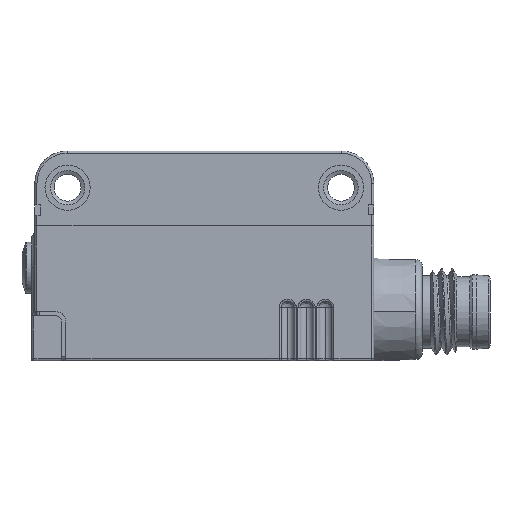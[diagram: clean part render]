
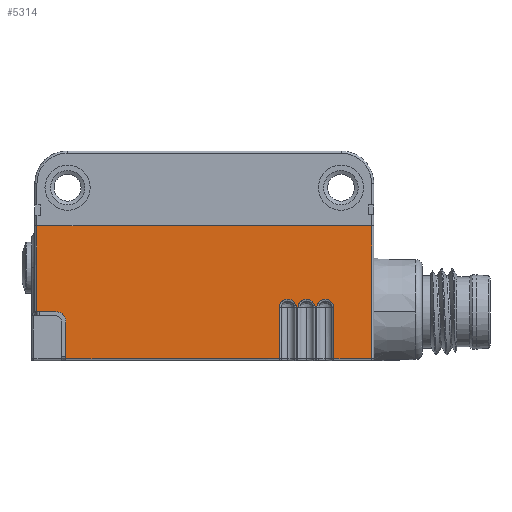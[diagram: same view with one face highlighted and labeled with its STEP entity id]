
A CAD part, left-side view. The second image highlights one B-rep face of the part: STEP entity #5314.
In plain terms, the highlighted planar face has unit normal (-1, 0, 0).
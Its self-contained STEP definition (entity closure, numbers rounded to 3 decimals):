
#811=B_SPLINE_CURVE_WITH_KNOTS('',3,(#65750,#65751,#65752,#65753,#65754,
#65755,#65756,#65757,#65758,#65759,#65760,#65761,#65762,#65763),
 .UNSPECIFIED.,.F.,.F.,(4,2,2,2,2,2,4),(0.,0.125,0.25,0.5,0.75,0.875,1.),
 .UNSPECIFIED.);
#814=B_SPLINE_CURVE_WITH_KNOTS('',3,(#65845,#65846,#65847,#65848,#65849,
#65850,#65851,#65852,#65853,#65854,#65855,#65856,#65857,#65858),
 .UNSPECIFIED.,.F.,.F.,(4,2,2,2,2,2,4),(0.,0.125,0.25,0.5,0.75,0.875,1.),
 .UNSPECIFIED.);
#817=B_SPLINE_CURVE_WITH_KNOTS('',3,(#65940,#65941,#65942,#65943,#65944,
#65945,#65946,#65947,#65948,#65949,#65950,#65951,#65952,#65953),
 .UNSPECIFIED.,.F.,.F.,(4,2,2,2,2,2,4),(0.,0.125,0.25,0.5,0.75,0.875,1.),
 .UNSPECIFIED.);
#3796=CIRCLE('',#44866,1309.533);
#3797=CIRCLE('',#44867,1.);
#5314=ADVANCED_FACE('',(#8765),#7265,.T.);
#7265=PLANE('',#44868);
#8765=FACE_OUTER_BOUND('',#11162,.T.);
#11162=EDGE_LOOP('',(#17639,#17640,#17641,#17642,#17643,#17644,#17645,#17646,
#17647,#17648,#17649,#17650,#17651,#17652,#17653,#17654,#17655,#17656,#17657));
#17639=ORIENTED_EDGE('',*,*,#31925,.F.);
#17640=ORIENTED_EDGE('',*,*,#31926,.F.);
#17641=ORIENTED_EDGE('',*,*,#31927,.F.);
#17642=ORIENTED_EDGE('',*,*,#31928,.T.);
#17643=ORIENTED_EDGE('',*,*,#31745,.T.);
#17644=ORIENTED_EDGE('',*,*,#31747,.T.);
#17645=ORIENTED_EDGE('',*,*,#31752,.T.);
#17646=ORIENTED_EDGE('',*,*,#31754,.T.);
#17647=ORIENTED_EDGE('',*,*,#31758,.T.);
#17648=ORIENTED_EDGE('',*,*,#31760,.T.);
#17649=ORIENTED_EDGE('',*,*,#31765,.T.);
#17650=ORIENTED_EDGE('',*,*,#31767,.T.);
#17651=ORIENTED_EDGE('',*,*,#31771,.T.);
#17652=ORIENTED_EDGE('',*,*,#31773,.T.);
#17653=ORIENTED_EDGE('',*,*,#31778,.T.);
#17654=ORIENTED_EDGE('',*,*,#31780,.T.);
#17655=ORIENTED_EDGE('',*,*,#31783,.T.);
#17656=ORIENTED_EDGE('',*,*,#31491,.F.);
#17657=ORIENTED_EDGE('',*,*,#31735,.T.);
#26988=VERTEX_POINT('',#64825);
#26989=VERTEX_POINT('',#64827);
#27041=VERTEX_POINT('',#65682);
#27044=VERTEX_POINT('',#65734);
#27045=VERTEX_POINT('',#65741);
#27047=VERTEX_POINT('',#65749);
#27048=VERTEX_POINT('',#65819);
#27049=VERTEX_POINT('',#65827);
#27050=VERTEX_POINT('',#65836);
#27052=VERTEX_POINT('',#65844);
#27053=VERTEX_POINT('',#65914);
#27054=VERTEX_POINT('',#65922);
#27055=VERTEX_POINT('',#65931);
#27057=VERTEX_POINT('',#65939);
#27058=VERTEX_POINT('',#66009);
#27059=VERTEX_POINT('',#66017);
#27061=VERTEX_POINT('',#66400);
#27062=VERTEX_POINT('',#66402);
#27063=VERTEX_POINT('',#66404);
#31491=EDGE_CURVE('',#26988,#26989,#36799,.T.);
#31735=EDGE_CURVE('',#26988,#27041,#36958,.T.);
#31745=EDGE_CURVE('',#27044,#27045,#36960,.T.);
#31747=EDGE_CURVE('',#27045,#27047,#811,.T.);
#31752=EDGE_CURVE('',#27047,#27048,#36961,.T.);
#31754=EDGE_CURVE('',#27048,#27049,#36962,.T.);
#31758=EDGE_CURVE('',#27049,#27050,#36963,.T.);
#31760=EDGE_CURVE('',#27050,#27052,#814,.T.);
#31765=EDGE_CURVE('',#27052,#27053,#36964,.T.);
#31767=EDGE_CURVE('',#27053,#27054,#36965,.T.);
#31771=EDGE_CURVE('',#27054,#27055,#36966,.T.);
#31773=EDGE_CURVE('',#27055,#27057,#817,.T.);
#31778=EDGE_CURVE('',#27057,#27058,#36967,.T.);
#31780=EDGE_CURVE('',#27058,#27059,#36968,.T.);
#31783=EDGE_CURVE('',#27059,#26989,#36969,.T.);
#31925=EDGE_CURVE('',#27061,#27041,#3796,.T.);
#31926=EDGE_CURVE('',#27062,#27061,#3797,.T.);
#31927=EDGE_CURVE('',#27063,#27062,#37104,.T.);
#31928=EDGE_CURVE('',#27063,#27044,#37105,.T.);
#36799=LINE('',#64826,#40661);
#36958=LINE('',#65683,#40820);
#36960=LINE('',#65742,#40822);
#36961=LINE('',#65824,#40823);
#36962=LINE('',#65828,#40824);
#36963=LINE('',#65837,#40825);
#36964=LINE('',#65919,#40826);
#36965=LINE('',#65923,#40827);
#36966=LINE('',#65932,#40828);
#36967=LINE('',#66014,#40829);
#36968=LINE('',#66018,#40830);
#36969=LINE('',#66023,#40831);
#37104=LINE('',#66403,#40966);
#37105=LINE('',#66405,#40967);
#40661=VECTOR('',#50192,1.);
#40820=VECTOR('',#50811,1.);
#40822=VECTOR('',#50831,1.);
#40823=VECTOR('',#50842,1.);
#40824=VECTOR('',#50847,1.);
#40825=VECTOR('',#50856,1.);
#40826=VECTOR('',#50867,1.);
#40827=VECTOR('',#50872,1.);
#40828=VECTOR('',#50881,1.);
#40829=VECTOR('',#50892,1.);
#40830=VECTOR('',#50897,1.);
#40831=VECTOR('',#50906,1.);
#40966=VECTOR('',#51325,1.);
#40967=VECTOR('',#51326,1.);
#44866=AXIS2_PLACEMENT_3D('',#66399,#51321,#51322);
#44867=AXIS2_PLACEMENT_3D('',#66401,#51323,#51324);
#44868=AXIS2_PLACEMENT_3D('',#66406,#51327,#51328);
#50192=DIRECTION('',(0.,-1.,0.));
#50811=DIRECTION('',(0.,0.,-1.));
#50831=DIRECTION('',(0.,0.,1.));
#50842=DIRECTION('',(0.,0.,-1.));
#50847=DIRECTION('',(0.,-1.,0.));
#50856=DIRECTION('',(0.,0.,1.));
#50867=DIRECTION('',(0.,0.,-1.));
#50872=DIRECTION('',(0.,-1.,0.));
#50881=DIRECTION('',(0.,0.,1.));
#50892=DIRECTION('',(0.,0.,-1.));
#50897=DIRECTION('',(0.,-1.,0.));
#50906=DIRECTION('',(0.,0.,1.));
#51321=DIRECTION('',(1.,0.,0.));
#51322=DIRECTION('',(0.,1.,0.));
#51323=DIRECTION('',(-1.,0.,0.));
#51324=DIRECTION('',(0.,-1.,0.));
#51325=DIRECTION('',(0.,0.,1.));
#51326=DIRECTION('',(0.,-1.,0.));
#51327=DIRECTION('',(-1.,0.,0.));
#51328=DIRECTION('',(0.,1.,0.));
#64825=CARTESIAN_POINT('',(-5.4,15.55,-6.95));
#64826=CARTESIAN_POINT('',(-5.4,0.,-6.95));
#64827=CARTESIAN_POINT('',(-5.4,-15.55,-6.95));
#65682=CARTESIAN_POINT('',(-5.4,15.55,-14.9));
#65683=CARTESIAN_POINT('',(-5.4,15.55,-10.15));
#65734=CARTESIAN_POINT('',(-5.4,-6.955,-19.3));
#65741=CARTESIAN_POINT('',(-5.4,-6.955,-14.5));
#65742=CARTESIAN_POINT('',(-5.4,-6.955,-16.9));
#65749=CARTESIAN_POINT('',(-5.4,-8.545,-14.5));
#65750=CARTESIAN_POINT('',(-5.4,-6.955,-14.5));
#65751=CARTESIAN_POINT('',(-5.4,-6.955,-14.4));
#65752=CARTESIAN_POINT('',(-5.4,-6.983,-14.303));
#65753=CARTESIAN_POINT('',(-5.4,-7.072,-14.127));
#65754=CARTESIAN_POINT('',(-5.4,-7.135,-14.048));
#65755=CARTESIAN_POINT('',(-5.4,-7.356,-13.852));
#65756=CARTESIAN_POINT('',(-5.4,-7.552,-13.777));
#65757=CARTESIAN_POINT('',(-5.4,-7.947,-13.777));
#65758=CARTESIAN_POINT('',(-5.4,-8.143,-13.85));
#65759=CARTESIAN_POINT('',(-5.4,-8.366,-14.048));
#65760=CARTESIAN_POINT('',(-5.4,-8.427,-14.126));
#65761=CARTESIAN_POINT('',(-5.4,-8.517,-14.303));
#65762=CARTESIAN_POINT('',(-5.4,-8.545,-14.4));
#65763=CARTESIAN_POINT('',(-5.4,-8.545,-14.5));
#65819=CARTESIAN_POINT('',(-5.4,-8.545,-19.3));
#65824=CARTESIAN_POINT('',(-5.4,-8.545,-16.9));
#65827=CARTESIAN_POINT('',(-5.4,-8.705,-19.3));
#65828=CARTESIAN_POINT('',(-5.4,-8.625,-19.3));
#65836=CARTESIAN_POINT('',(-5.4,-8.705,-14.5));
#65837=CARTESIAN_POINT('',(-5.4,-8.705,-16.9));
#65844=CARTESIAN_POINT('',(-5.4,-10.295,-14.5));
#65845=CARTESIAN_POINT('',(-5.4,-8.705,-14.5));
#65846=CARTESIAN_POINT('',(-5.4,-8.705,-14.4));
#65847=CARTESIAN_POINT('',(-5.4,-8.733,-14.303));
#65848=CARTESIAN_POINT('',(-5.4,-8.822,-14.127));
#65849=CARTESIAN_POINT('',(-5.4,-8.885,-14.048));
#65850=CARTESIAN_POINT('',(-5.4,-9.106,-13.852));
#65851=CARTESIAN_POINT('',(-5.4,-9.302,-13.777));
#65852=CARTESIAN_POINT('',(-5.4,-9.697,-13.777));
#65853=CARTESIAN_POINT('',(-5.4,-9.893,-13.85));
#65854=CARTESIAN_POINT('',(-5.4,-10.116,-14.048));
#65855=CARTESIAN_POINT('',(-5.4,-10.177,-14.126));
#65856=CARTESIAN_POINT('',(-5.4,-10.267,-14.303));
#65857=CARTESIAN_POINT('',(-5.4,-10.295,-14.4));
#65858=CARTESIAN_POINT('',(-5.4,-10.295,-14.5));
#65914=CARTESIAN_POINT('',(-5.4,-10.295,-19.3));
#65919=CARTESIAN_POINT('',(-5.4,-10.295,-16.9));
#65922=CARTESIAN_POINT('',(-5.4,-10.455,-19.3));
#65923=CARTESIAN_POINT('',(-5.4,-10.375,-19.3));
#65931=CARTESIAN_POINT('',(-5.4,-10.455,-14.5));
#65932=CARTESIAN_POINT('',(-5.4,-10.455,-16.9));
#65939=CARTESIAN_POINT('',(-5.4,-12.045,-14.5));
#65940=CARTESIAN_POINT('',(-5.4,-10.455,-14.5));
#65941=CARTESIAN_POINT('',(-5.4,-10.455,-14.4));
#65942=CARTESIAN_POINT('',(-5.4,-10.483,-14.303));
#65943=CARTESIAN_POINT('',(-5.4,-10.572,-14.127));
#65944=CARTESIAN_POINT('',(-5.4,-10.635,-14.048));
#65945=CARTESIAN_POINT('',(-5.4,-10.856,-13.852));
#65946=CARTESIAN_POINT('',(-5.4,-11.052,-13.777));
#65947=CARTESIAN_POINT('',(-5.4,-11.447,-13.777));
#65948=CARTESIAN_POINT('',(-5.4,-11.643,-13.85));
#65949=CARTESIAN_POINT('',(-5.4,-11.866,-14.048));
#65950=CARTESIAN_POINT('',(-5.4,-11.927,-14.126));
#65951=CARTESIAN_POINT('',(-5.4,-12.017,-14.303));
#65952=CARTESIAN_POINT('',(-5.4,-12.045,-14.4));
#65953=CARTESIAN_POINT('',(-5.4,-12.045,-14.5));
#66009=CARTESIAN_POINT('',(-5.4,-12.045,-19.3));
#66014=CARTESIAN_POINT('',(-5.4,-12.045,-16.9));
#66017=CARTESIAN_POINT('',(-5.4,-15.55,-19.3));
#66018=CARTESIAN_POINT('',(-5.4,-13.798,-19.3));
#66023=CARTESIAN_POINT('',(-5.4,-15.55,-13.15));
#66399=CARTESIAN_POINT('',(-5.4,14.985,1294.633));
#66400=CARTESIAN_POINT('',(-5.4,13.851,-14.9));
#66401=CARTESIAN_POINT('',(-5.4,13.85,-15.9));
#66402=CARTESIAN_POINT('',(-5.4,12.85,-15.9));
#66403=CARTESIAN_POINT('',(-5.4,12.85,-14.898));
#66404=CARTESIAN_POINT('',(-5.4,12.85,-19.3));
#66405=CARTESIAN_POINT('',(-5.4,2.473,-19.3));
#66406=CARTESIAN_POINT('',(-5.4,15.75,-7.));
